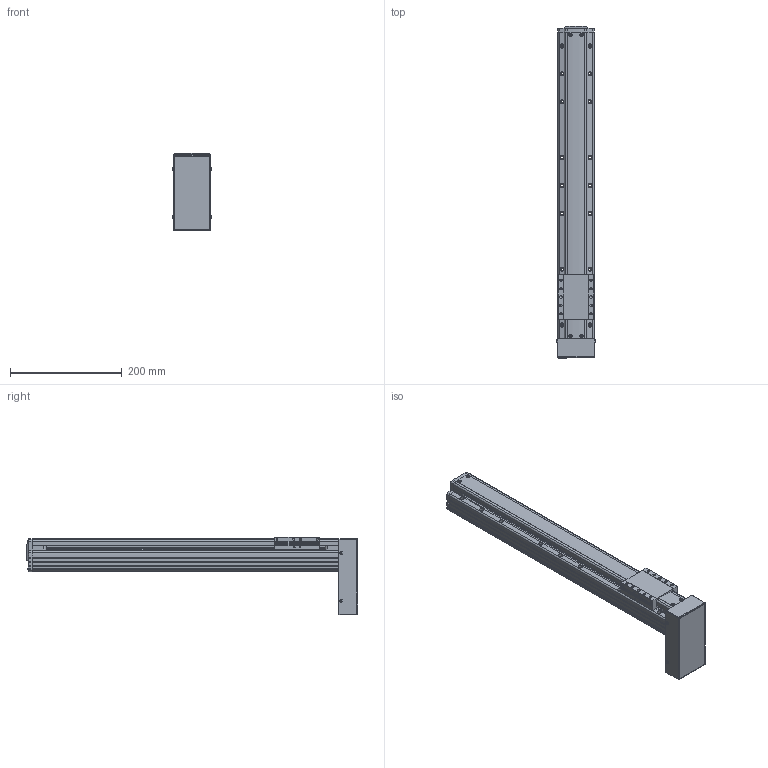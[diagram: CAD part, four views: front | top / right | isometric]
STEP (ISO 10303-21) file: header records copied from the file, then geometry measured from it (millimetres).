
FILE_DESCRIPTION(('STEP AP214'),'1');
FILE_NAME('Z:/Web/3D/PSA65/STP/PSA65-400 (3D)/PSA65ㅁㅁ-400PB.stp','2014-06-25T04:58:43',(' '),(' '),'Spatial InterOp 3D',' ',' ');
FILE_SCHEMA(('automotive_design'));
Length unit declared in the file: millimetre
Products named in the file (49): SLIDE; RRCV-PA060; 1; 2; 3; 4; 5; 6; 7; 8; 9; 10; 11; 12; 13; 14; 15; 16; 17; 18; 19; 20; 21; 22; 23; 24; 25; 26; 27; 28; 29; 30; 31; 스크루 : Round - M3.0 x 8.0; RN8 x 0.75; SHAFT-SAN65; BASE; 스크루 : Round - M3.0 x 6.0; BTCV-SAN65; M3.0 x 6.0
Bounding box: 71.13 x 594.8 x 139 mm (x, y, z)
Volume: 2032380.7 mm3; surface area: 268167.3 mm2
Topology: 49 solids, 49 shells, 1755 faces, 4647 edges, 2960 vertices
Faces by surface type: plane 1038, cylinder 485, cone 167, sphere 30, bspline 19, torus 16
Entity records: 69648 total; most frequent: CARTESIAN_POINT 10992, DIRECTION 9262, ORIENTED_EDGE 9058, EDGE_CURVE 4529, LINE 3202, VECTOR 3202, AXIS2_PLACEMENT_3D 3030, VERTEX_POINT 2960
